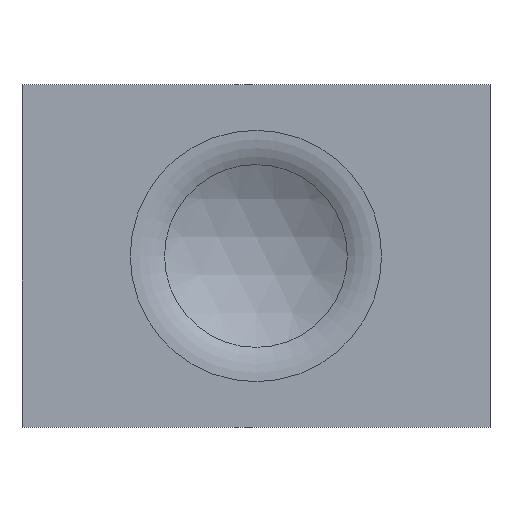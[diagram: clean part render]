
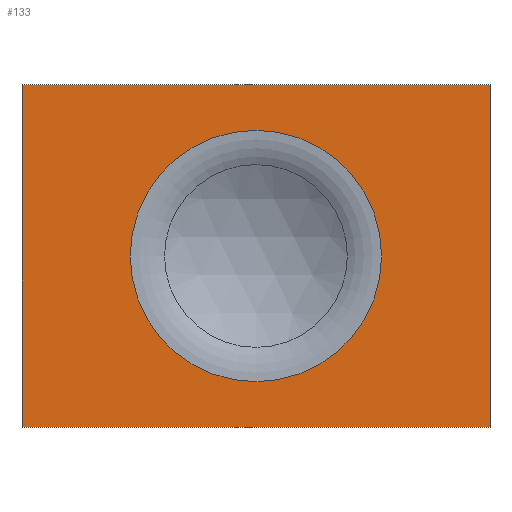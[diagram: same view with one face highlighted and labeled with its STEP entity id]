
A CAD part, top view. The second image highlights one B-rep face of the part: STEP entity #133.
In plain terms, the highlighted planar face has unit normal (0, 0, 1).
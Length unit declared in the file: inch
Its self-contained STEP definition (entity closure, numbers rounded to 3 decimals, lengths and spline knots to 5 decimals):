
#24=CARTESIAN_POINT('',(-0.96575,0.62992,0.18268));
#25=VERTEX_POINT('',#24);
#34=CARTESIAN_POINT('',(-0.96575,0.31496,0.18268));
#35=VERTEX_POINT('',#34);
#36=CARTESIAN_POINT('',(-0.96575,-2.37859,0.18268));
#37=DIRECTION('',(0.,1.,0.));
#38=VECTOR('',#37,1.);
#39=LINE('',#36,#38);
#40=EDGE_CURVE('',#35,#25,#39,.T.);
#65=CARTESIAN_POINT('',(-1.39633,0.31496,0.18268));
#66=VERTEX_POINT('',#65);
#67=CARTESIAN_POINT('',(-1.77165,0.31496,0.18268));
#68=DIRECTION('',(-1.,0.,0.));
#69=VECTOR('',#68,39.37008);
#70=LINE('',#67,#69);
#71=EDGE_CURVE('',#35,#66,#70,.T.);
#95=ORIENTED_EDGE('',*,*,#40,.T.);
#96=CARTESIAN_POINT('',(-1.39633,0.62992,0.18268));
#97=VERTEX_POINT('',#96);
#98=CARTESIAN_POINT('',(1.77165,0.62992,0.18268));
#99=DIRECTION('',(1.,0.,0.));
#100=VECTOR('',#99,39.37008);
#101=LINE('',#98,#100);
#102=EDGE_CURVE('',#97,#25,#101,.T.);
#103=ORIENTED_EDGE('',*,*,#102,.F.);
#104=CARTESIAN_POINT('',(-1.39633,-2.91225,0.18268));
#105=DIRECTION('',(0.,-1.,0.));
#106=VECTOR('',#105,1.);
#107=LINE('',#104,#106);
#108=EDGE_CURVE('',#97,#66,#107,.T.);
#109=ORIENTED_EDGE('',*,*,#108,.T.);
#110=ORIENTED_EDGE('',*,*,#71,.F.);
#111=EDGE_LOOP('',(#95,#103,#109,#110));
#112=FACE_OUTER_BOUND('',#111,.T.);
#113=CARTESIAN_POINT('',(-1.1811,0.58808,0.18268));
#114=VERTEX_POINT('',#113);
#115=CARTESIAN_POINT('',(-1.1811,0.3568,0.18268));
#116=VERTEX_POINT('',#115);
#117=CARTESIAN_POINT('',(-1.1811,0.47244,0.18268));
#118=DIRECTION('',(0.,0.,-1.));
#119=DIRECTION('',(0.,-1.,0.));
#120=AXIS2_PLACEMENT_3D('',#117,#118,#119);
#121=CIRCLE('',#120,0.11564);
#122=EDGE_CURVE('',#114,#116,#121,.T.);
#123=ORIENTED_EDGE('',*,*,#122,.T.);
#124=EDGE_CURVE('',#116,#114,#121,.T.);
#125=ORIENTED_EDGE('',*,*,#124,.T.);
#126=EDGE_LOOP('',(#123,#125));
#127=FACE_BOUND('',#126,.T.);
#128=CARTESIAN_POINT('',(1.77165,0.47244,0.18268));
#129=DIRECTION('',(0.,0.,-1.));
#130=DIRECTION('',(0.,1.,0.));
#131=AXIS2_PLACEMENT_3D('',#128,#129,#130);
#132=PLANE('',#131);
#133=ADVANCED_FACE('',(#112,#127),#132,.F.);
